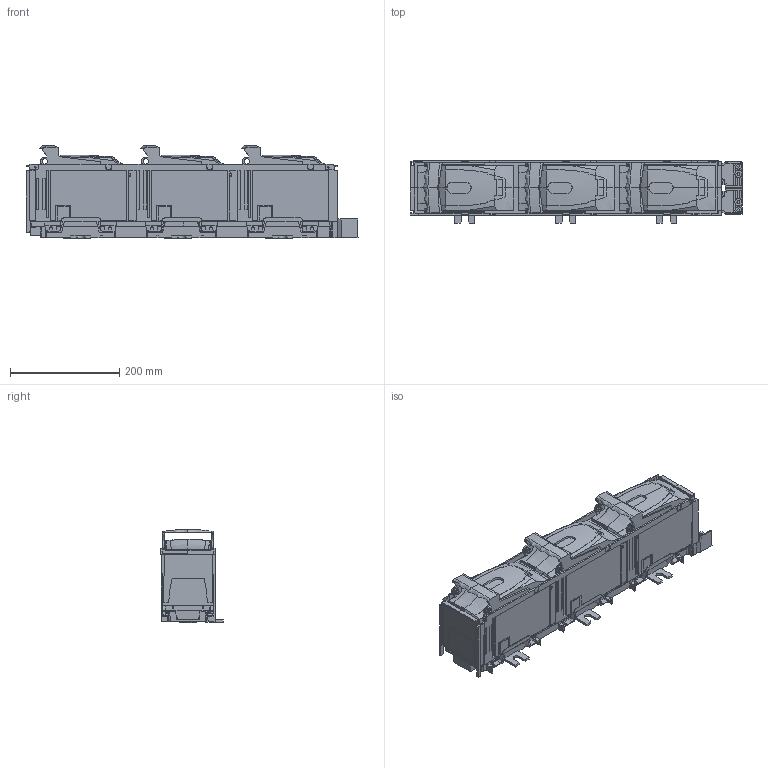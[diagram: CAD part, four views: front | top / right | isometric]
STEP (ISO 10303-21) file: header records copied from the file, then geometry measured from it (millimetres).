
FILE_DESCRIPTION(/* description */ (''),/* implementation_level */ '2;1');
FILE_NAME(/* name */ '63-177582-001_A01_1-Rozłącznik ARS 400-1-NL.stp',/* time_stamp */ '2021-12-30T13:43:28+01:00',/* author */ (''),/* organization */ (''),/* preprocessor_version */ 'ST-DEVELOPER v18.1',/* originating_system */ 'SIEMENS PLM Software NX 1957',/* authorisation */ '');
FILE_SCHEMA (('AUTOMOTIVE_DESIGN { 1 0 10303 214 3 1 1 1 }'));
Products named in the file (1): 710_2CF45DB6y1kv
Bounding box: 608.22 x 115.08 x 170.4 mm (x, y, z)
Volume: 7443939.7 mm3; surface area: 439499.7 mm2
Topology: 1 solids, 8 shells, 2172 faces, 6447 edges, 4270 vertices
Faces by surface type: plane 1477, bspline 302, cylinder 276, cone 77, torus 36, sphere 4
Full cylindrical faces by diameter (mm): 1.7 x12, 3.5 x4, 3.7 x4, 14 x1
Entity records: 112029 total; most frequent: CARTESIAN_POINT 57443, ORIENTED_EDGE 12746, DIRECTION 9395, EDGE_CURVE 6373, LINE 4345, VECTOR 4345, VERTEX_POINT 4248, AXIS2_PLACEMENT_3D 2525
